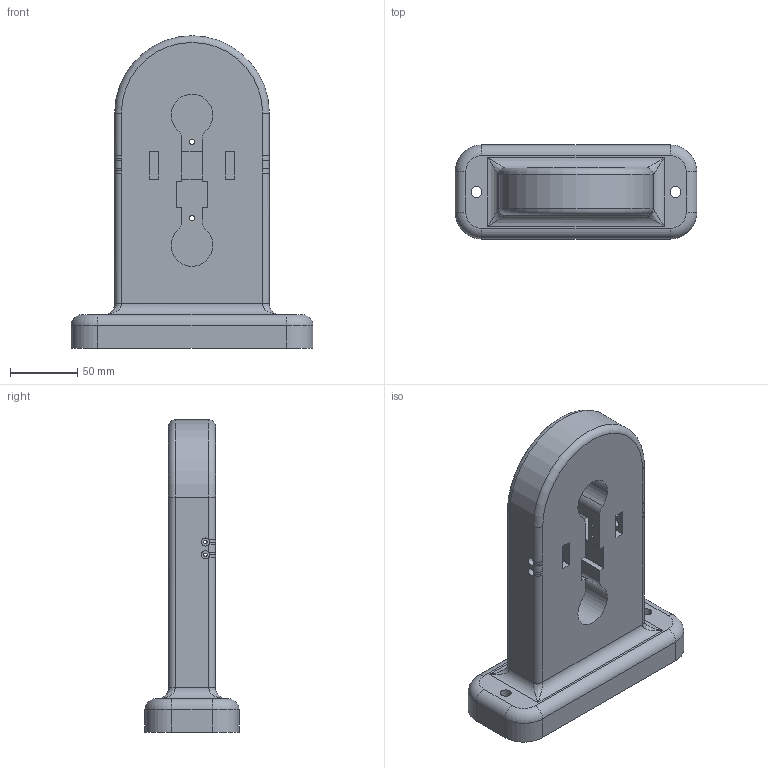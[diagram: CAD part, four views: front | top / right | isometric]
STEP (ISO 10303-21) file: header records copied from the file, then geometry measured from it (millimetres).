
FILE_DESCRIPTION(('FreeCAD Model'),'2;1');
FILE_NAME('Open CASCADE Shape Model','2026-10-05T10:53:48',(''),(''), 'Open CASCADE STEP processor 7.8','FreeCAD','Unknown');
FILE_SCHEMA(('AUTOMOTIVE_DESIGN { 1 0 10303 214 1 1 1 1 }'));
Length unit declared in the file: millimetre
Products named in the file (1): re designed end stands
Bounding box: 180 x 70 x 232.5 mm (x, y, z)
Volume: 983674.3 mm3; surface area: 106083.4 mm2
Topology: 1 solids, 1 shells, 94 faces, 252 edges, 154 vertices
Faces by surface type: cylinder 41, plane 37, bspline 10, torus 6
Full cylindrical faces by diameter (mm): 2.5 x4, 4 x2, 6 x4, 8 x4
Entity records: 3343 total; most frequent: CARTESIAN_POINT 1017, ORIENTED_EDGE 496, DIRECTION 462, EDGE_CURVE 248, AXIS2_PLACEMENT_3D 161, VERTEX_POINT 154, LINE 140, VECTOR 140
